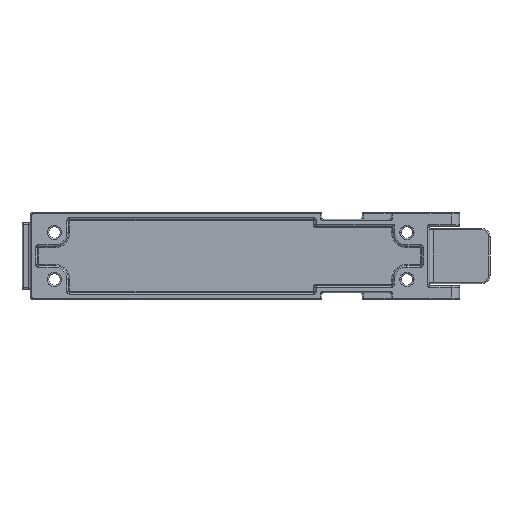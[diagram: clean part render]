
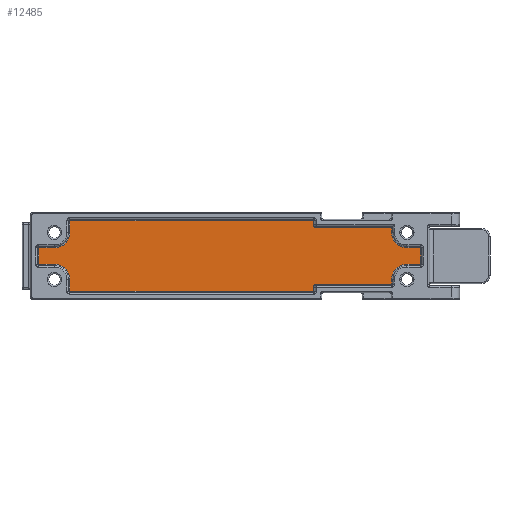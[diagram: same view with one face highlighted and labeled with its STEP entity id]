
A CAD part, top view. The second image highlights one B-rep face of the part: STEP entity #12485.
In plain terms, the highlighted planar face has unit normal (0, 0, 1).
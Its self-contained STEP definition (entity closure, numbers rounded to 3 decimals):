
#4775=DIRECTION('',(0.,-1.,0.));
#4776=VECTOR('',#4775,1.709);
#4777=CARTESIAN_POINT('',(59.452,10.209,2.5));
#4778=LINE('',#4777,#4776);
#4782=CARTESIAN_POINT('',(65.,8.5,2.5));
#4783=DIRECTION('',(0.,0.,1.));
#4784=DIRECTION('',(-1.,0.,0.));
#4785=AXIS2_PLACEMENT_3D('',#4782,#4783,#4784);
#4790=DIRECTION('',(1.,0.,0.));
#4791=VECTOR('',#4790,4.909);
#4792=CARTESIAN_POINT('',(65.,2.952,2.5));
#4793=LINE('',#4792,#4791);
#4797=DIRECTION('',(0.,-1.,0.));
#4798=VECTOR('',#4797,5.904);
#4799=CARTESIAN_POINT('',(69.909,2.952,2.5));
#4800=LINE('',#4799,#4798);
#4804=DIRECTION('',(-1.,0.,0.));
#4805=VECTOR('',#4804,4.909);
#4806=CARTESIAN_POINT('',(69.909,-2.952,2.5));
#4807=LINE('',#4806,#4805);
#4811=CARTESIAN_POINT('',(65.,-8.5,2.5));
#4812=DIRECTION('',(0.,0.,1.));
#4813=DIRECTION('',(0.,1.,0.));
#4814=AXIS2_PLACEMENT_3D('',#4811,#4812,#4813);
#4819=DIRECTION('',(0.,-1.,0.));
#4820=VECTOR('',#4819,1.709);
#4821=CARTESIAN_POINT('',(59.452,-8.5,2.5));
#4822=LINE('',#4821,#4820);
#4826=DIRECTION('',(-1.,0.,0.));
#4827=VECTOR('',#4826,27.144);
#4828=CARTESIAN_POINT('',(59.452,-10.209,2.5));
#4829=LINE('',#4828,#4827);
#4833=CARTESIAN_POINT('',(32.308,-10.209,2.5));
#4834=CARTESIAN_POINT('',(32.244,-10.209,2.5));
#4835=CARTESIAN_POINT('',(32.116,-10.221,2.5));
#4836=CARTESIAN_POINT('',(31.928,-10.277,2.5));
#4837=CARTESIAN_POINT('',(31.756,-10.368,2.5));
#4838=CARTESIAN_POINT('',(31.605,-10.489,2.5));
#4839=CARTESIAN_POINT('',(31.481,-10.636,2.5));
#4840=CARTESIAN_POINT('',(31.384,-10.811,2.5));
#4841=CARTESIAN_POINT('',(31.322,-11.008,2.5));
#4842=CARTESIAN_POINT('',(31.309,-11.141,2.5));
#4843=CARTESIAN_POINT('',(31.309,-11.208,2.5));
#4848=DIRECTION('',(0.,-1.,0.));
#4849=VECTOR('',#4848,1.5);
#4850=CARTESIAN_POINT('',(31.309,-11.208,2.5));
#4851=LINE('',#4850,#4849);
#4855=DIRECTION('',(-1.,0.,0.));
#4856=VECTOR('',#4855,88.061);
#4857=CARTESIAN_POINT('',(31.309,-12.709,2.5));
#4858=LINE('',#4857,#4856);
#4862=DIRECTION('',(0.,1.,0.));
#4863=VECTOR('',#4862,4.209);
#4864=CARTESIAN_POINT('',(-56.752,-12.709,2.5));
#4865=LINE('',#4864,#4863);
#4869=CARTESIAN_POINT('',(-62.3,-8.5,2.5));
#4870=DIRECTION('',(0.,0.,1.));
#4871=DIRECTION('',(1.,0.,0.));
#4872=AXIS2_PLACEMENT_3D('',#4869,#4870,#4871);
#4877=DIRECTION('',(-1.,0.,0.));
#4878=VECTOR('',#4877,5.709);
#4879=CARTESIAN_POINT('',(-62.3,-2.952,2.5));
#4880=LINE('',#4879,#4878);
#4884=DIRECTION('',(0.,1.,0.));
#4885=VECTOR('',#4884,5.904);
#4886=CARTESIAN_POINT('',(-68.009,-2.952,2.5));
#4887=LINE('',#4886,#4885);
#4891=DIRECTION('',(1.,0.,0.));
#4892=VECTOR('',#4891,5.709);
#4893=CARTESIAN_POINT('',(-68.009,2.952,2.5));
#4894=LINE('',#4893,#4892);
#4898=CARTESIAN_POINT('',(-62.3,8.5,2.5));
#4899=DIRECTION('',(0.,0.,1.));
#4900=DIRECTION('',(0.,-1.,0.));
#4901=AXIS2_PLACEMENT_3D('',#4898,#4899,#4900);
#4906=DIRECTION('',(0.,1.,0.));
#4907=VECTOR('',#4906,4.209);
#4908=CARTESIAN_POINT('',(-56.752,8.5,2.5));
#4909=LINE('',#4908,#4907);
#4913=DIRECTION('',(1.,0.,0.));
#4914=VECTOR('',#4913,88.061);
#4915=CARTESIAN_POINT('',(-56.752,12.709,2.5));
#4916=LINE('',#4915,#4914);
#4920=DIRECTION('',(0.,-1.,0.));
#4921=VECTOR('',#4920,1.5);
#4922=CARTESIAN_POINT('',(31.309,12.709,2.5));
#4923=LINE('',#4922,#4921);
#4927=CARTESIAN_POINT('',(31.309,11.208,2.5));
#4928=CARTESIAN_POINT('',(31.309,11.144,2.5));
#4929=CARTESIAN_POINT('',(31.321,11.016,2.5));
#4930=CARTESIAN_POINT('',(31.377,10.828,2.5));
#4931=CARTESIAN_POINT('',(31.468,10.656,2.5));
#4932=CARTESIAN_POINT('',(31.589,10.505,2.5));
#4933=CARTESIAN_POINT('',(31.736,10.381,2.5));
#4934=CARTESIAN_POINT('',(31.911,10.284,2.5));
#4935=CARTESIAN_POINT('',(32.108,10.222,2.5));
#4936=CARTESIAN_POINT('',(32.241,10.209,2.5));
#4937=CARTESIAN_POINT('',(32.308,10.209,2.5));
#4942=DIRECTION('',(1.,0.,0.));
#4943=VECTOR('',#4942,27.144);
#4944=CARTESIAN_POINT('',(32.308,10.209,2.5));
#4945=LINE('',#4944,#4943);
#7032=CARTESIAN_POINT('',(59.452,10.209,2.5));
#7033=CARTESIAN_POINT('',(59.452,8.5,2.5));
#7034=VERTEX_POINT('',#7032);
#7035=VERTEX_POINT('',#7033);
#7036=CARTESIAN_POINT('',(32.308,10.209,2.5));
#7037=VERTEX_POINT('',#7036);
#7040=VERTEX_POINT('',#4927);
#7042=CARTESIAN_POINT('',(31.309,12.709,2.5));
#7043=VERTEX_POINT('',#7042);
#7048=CARTESIAN_POINT('',(-56.752,12.709,2.5));
#7049=VERTEX_POINT('',#7048);
#7054=CARTESIAN_POINT('',(-56.752,8.5,2.5));
#7055=VERTEX_POINT('',#7054);
#7058=CARTESIAN_POINT('',(-62.3,2.952,2.5));
#7059=VERTEX_POINT('',#7058);
#7062=CARTESIAN_POINT('',(-68.009,2.952,2.5));
#7063=VERTEX_POINT('',#7062);
#7068=CARTESIAN_POINT('',(-68.009,-2.952,2.5));
#7069=VERTEX_POINT('',#7068);
#7074=CARTESIAN_POINT('',(-62.3,-2.952,2.5));
#7075=VERTEX_POINT('',#7074);
#7078=CARTESIAN_POINT('',(-56.752,-8.5,2.5));
#7079=VERTEX_POINT('',#7078);
#7082=CARTESIAN_POINT('',(-56.752,-12.709,2.5));
#7083=VERTEX_POINT('',#7082);
#7088=CARTESIAN_POINT('',(31.309,-12.709,2.5));
#7089=VERTEX_POINT('',#7088);
#7094=CARTESIAN_POINT('',(31.309,-11.208,2.5));
#7095=VERTEX_POINT('',#7094);
#7098=VERTEX_POINT('',#4833);
#7100=CARTESIAN_POINT('',(59.452,-10.209,2.5));
#7101=VERTEX_POINT('',#7100);
#7106=CARTESIAN_POINT('',(59.452,-8.5,2.5));
#7107=VERTEX_POINT('',#7106);
#7110=CARTESIAN_POINT('',(65.,-2.952,2.5));
#7111=VERTEX_POINT('',#7110);
#7114=CARTESIAN_POINT('',(69.909,-2.952,2.5));
#7115=VERTEX_POINT('',#7114);
#7120=CARTESIAN_POINT('',(69.909,2.952,2.5));
#7121=VERTEX_POINT('',#7120);
#7126=CARTESIAN_POINT('',(65.,2.952,2.5));
#7127=VERTEX_POINT('',#7126);
#12435=CARTESIAN_POINT('',(0.,0.,2.5));
#12436=DIRECTION('',(0.,0.,1.));
#12437=DIRECTION('',(1.,0.,0.));
#12438=AXIS2_PLACEMENT_3D('',#12435,#12436,#12437);
#12439=PLANE('',#12438);
#12441=ORIENTED_EDGE('',*,*,#12440,.T.);
#12443=ORIENTED_EDGE('',*,*,#12442,.T.);
#12445=ORIENTED_EDGE('',*,*,#12444,.T.);
#12447=ORIENTED_EDGE('',*,*,#12446,.T.);
#12449=ORIENTED_EDGE('',*,*,#12448,.T.);
#12451=ORIENTED_EDGE('',*,*,#12450,.T.);
#12453=ORIENTED_EDGE('',*,*,#12452,.T.);
#12455=ORIENTED_EDGE('',*,*,#12454,.T.);
#12457=ORIENTED_EDGE('',*,*,#12456,.T.);
#12459=ORIENTED_EDGE('',*,*,#12458,.T.);
#12461=ORIENTED_EDGE('',*,*,#12460,.T.);
#12463=ORIENTED_EDGE('',*,*,#12462,.T.);
#12465=ORIENTED_EDGE('',*,*,#12464,.T.);
#12467=ORIENTED_EDGE('',*,*,#12466,.T.);
#12469=ORIENTED_EDGE('',*,*,#12468,.T.);
#12471=ORIENTED_EDGE('',*,*,#12470,.T.);
#12473=ORIENTED_EDGE('',*,*,#12472,.T.);
#12475=ORIENTED_EDGE('',*,*,#12474,.T.);
#12477=ORIENTED_EDGE('',*,*,#12476,.T.);
#12479=ORIENTED_EDGE('',*,*,#12478,.T.);
#12480=ORIENTED_EDGE('',*,*,#12425,.T.);
#12482=ORIENTED_EDGE('',*,*,#12481,.T.);
#12483=EDGE_LOOP('',(#12441,#12443,#12445,#12447,#12449,#12451,#12453,#12455,
#12457,#12459,#12461,#12463,#12465,#12467,#12469,#12471,#12473,#12475,#12477,
#12479,#12480,#12482));
#12484=FACE_OUTER_BOUND('',#12483,.F.);
#4786=CIRCLE('',#4785,5.548);
#4815=CIRCLE('',#4814,5.548);
#4844=B_SPLINE_CURVE_WITH_KNOTS('',3,(#4833,#4834,#4835,#4836,#4837,#4838,#4839,
#4840,#4841,#4842,#4843),.UNSPECIFIED.,.F.,.F.,(4,1,1,1,1,1,1,1,4),(0.,
0.125,0.25,0.375,0.5,0.625,0.75,0.875,1.),.UNSPECIFIED.);
#4873=CIRCLE('',#4872,5.548);
#4902=CIRCLE('',#4901,5.548);
#4938=B_SPLINE_CURVE_WITH_KNOTS('',3,(#4927,#4928,#4929,#4930,#4931,#4932,#4933,
#4934,#4935,#4936,#4937),.UNSPECIFIED.,.F.,.F.,(4,1,1,1,1,1,1,1,4),(0.,
0.125,0.25,0.375,0.5,0.625,0.75,0.875,1.),.UNSPECIFIED.);
#12425=EDGE_CURVE('',#7040,#7037,#4938,.T.);
#12440=EDGE_CURVE('',#7034,#7035,#4778,.T.);
#12442=EDGE_CURVE('',#7035,#7127,#4786,.T.);
#12444=EDGE_CURVE('',#7127,#7121,#4793,.T.);
#12446=EDGE_CURVE('',#7121,#7115,#4800,.T.);
#12448=EDGE_CURVE('',#7115,#7111,#4807,.T.);
#12450=EDGE_CURVE('',#7111,#7107,#4815,.T.);
#12452=EDGE_CURVE('',#7107,#7101,#4822,.T.);
#12454=EDGE_CURVE('',#7101,#7098,#4829,.T.);
#12456=EDGE_CURVE('',#7098,#7095,#4844,.T.);
#12458=EDGE_CURVE('',#7095,#7089,#4851,.T.);
#12460=EDGE_CURVE('',#7089,#7083,#4858,.T.);
#12462=EDGE_CURVE('',#7083,#7079,#4865,.T.);
#12464=EDGE_CURVE('',#7079,#7075,#4873,.T.);
#12466=EDGE_CURVE('',#7075,#7069,#4880,.T.);
#12468=EDGE_CURVE('',#7069,#7063,#4887,.T.);
#12470=EDGE_CURVE('',#7063,#7059,#4894,.T.);
#12472=EDGE_CURVE('',#7059,#7055,#4902,.T.);
#12474=EDGE_CURVE('',#7055,#7049,#4909,.T.);
#12476=EDGE_CURVE('',#7049,#7043,#4916,.T.);
#12478=EDGE_CURVE('',#7043,#7040,#4923,.T.);
#12481=EDGE_CURVE('',#7037,#7034,#4945,.T.);
#12485=ADVANCED_FACE('',(#12484),#12439,.T.);
